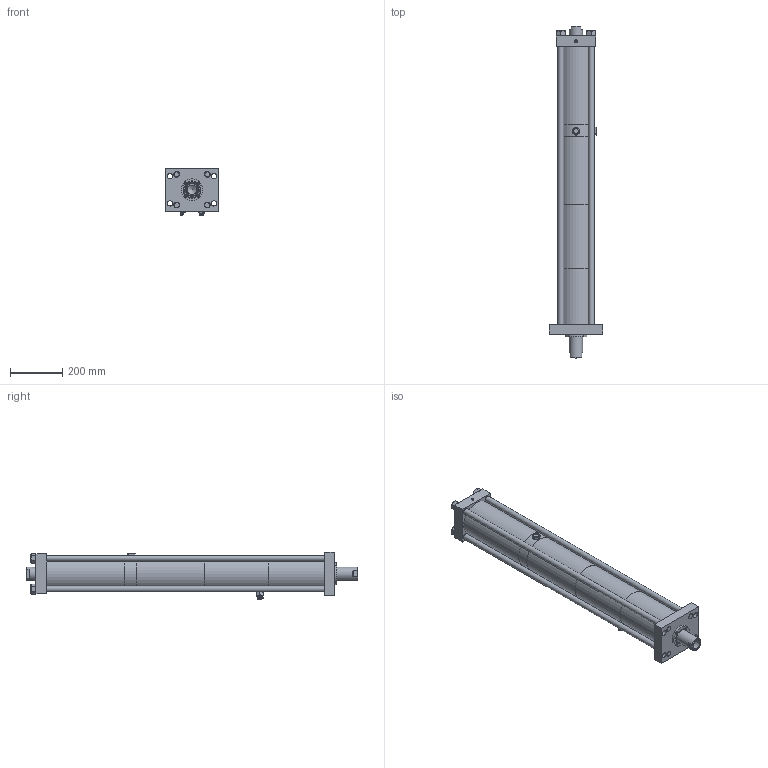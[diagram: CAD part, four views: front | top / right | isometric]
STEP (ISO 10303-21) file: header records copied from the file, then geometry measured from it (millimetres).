
FILE_DESCRIPTION (( 'STEP AP214' ), '1' );
FILE_NAME ('AH20-L-H.STEP', '2024-02-20T18:48:36', ( '' ), ( '' ), 'SwSTEP 2.0', 'SolidWorks 2018', '' );
FILE_SCHEMA (( 'AUTOMOTIVE_DESIGN' ));
Length unit declared in the file: inch
Products named in the file (19): HL-37; HL20-02; HL20-11_defeature; HL9-20-06 WEBSITE; HL20-13_defeature; EMA3-0.25NPT-MA3; HL20-14; HL20-10 DF; 24142_24142; HL20-12; HL20-01 WEBSITE; HL20-03_defeature; PD343_5315K47; AH20-L-H; HL20-04; 23114; 36368; HL9-20-07; HL9-20-15 WEBSITE
Assembly tree (29 placements, depth 2):
  AH20-L-H
    HL20-01 WEBSITE
    HL20-02
    HL20-04
    HL9-20-06 WEBSITE
    HL9-20-07
    HL20-10 DF
    HL20-11_defeature
    HL20-12
    HL20-14  x4
    HL9-20-15 WEBSITE
    PD343_5315K47
    EMA3-0.25NPT-MA3
    HL-37  x2
    24142_24142  x2
    36368  x4
    23114  x4
    HL20-03_defeature
    HL20-13_defeature
Bounding box: 203.2 x 1271.52 x 182.41 mm (x, y, z)
Volume: 11383207.9 mm3; surface area: 1555162.5 mm2
Topology: 31 solids, 31 shells, 824 faces, 1876 edges, 1192 vertices
Faces by surface type: plane 333, cone 226, cylinder 204, bspline 49, torus 12
Full cylindrical faces by diameter (mm): 3.454 x4, 4.166 x4, 4.496 x4, 4.623 x1, 6.35 x1, 6.858 x4, 7.937 x6, 8.433 x1, 9.246 x1, 11.112 x2, 12.7 x1, 13.652 x2, 13.716 x7, 17.856 x1, 19.05 x6, 19.812 x2, 20.262 x4, 20.637 x7, 20.638 x1, 22.174 x1, 22.225 x5, 23.017 x4, 26.67 x2, 29.766 x1, 31.75 x1, 36.068 x1, 50.8 x2, 50.825 x1, 55.372 x1, 61.912 x1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
Entity records: 37380 total; most frequent: CARTESIAN_POINT 20489, DIRECTION 2718, ORIENTED_EDGE 2482, EDGE_CURVE 1241, AXIS2_PLACEMENT_3D 1133, EDGE_LOOP 952, VERTEX_POINT 897, FACE_OUTER_BOUND 735
